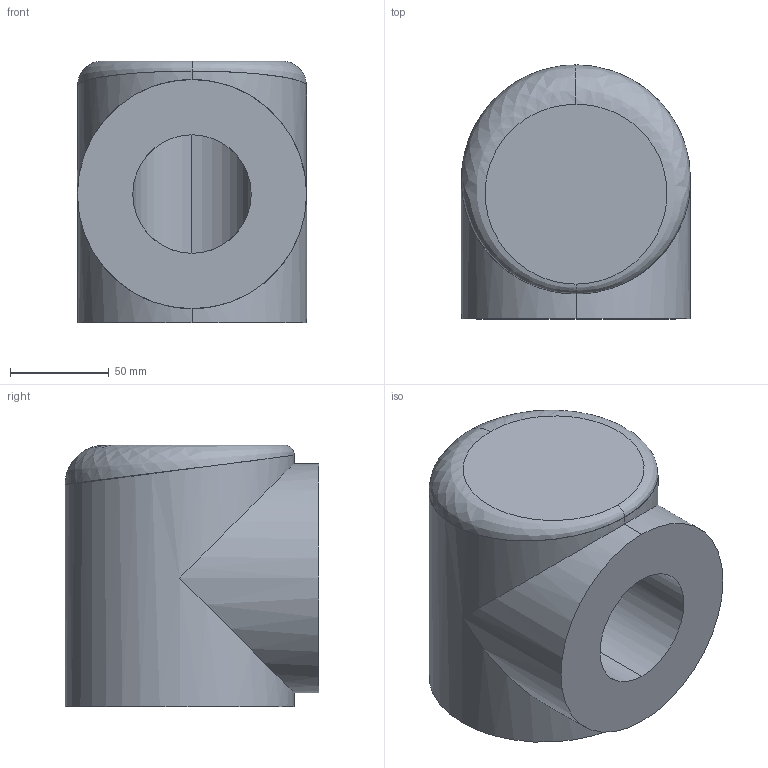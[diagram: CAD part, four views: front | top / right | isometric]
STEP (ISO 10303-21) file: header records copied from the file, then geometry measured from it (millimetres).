
FILE_DESCRIPTION (( 'STEP AP214' ), '1' );
FILE_NAME ('link1.STEP', '2020-08-12T08:23:50', ( '' ), ( '' ), 'SwSTEP 2.0', 'SolidWorks 2019', '' );
FILE_SCHEMA (( 'AUTOMOTIVE_DESIGN' ));
Length unit declared in the file: millimetre
Products named in the file (2): base; link1
Assembly tree (1 placements, depth 2):
  link1
    base
Bounding box: 116 x 128.5 x 132.5 mm (x, y, z)
Volume: 1172941.4 mm3; surface area: 122024.3 mm2
Topology: 2 solids, 2 shells, 20 faces, 58 edges, 42 vertices
Faces by surface type: cylinder 12, plane 6, bspline 2
Entity records: 1435 total; most frequent: CARTESIAN_POINT 906, ORIENTED_EDGE 116, DIRECTION 76, EDGE_CURVE 58, VERTEX_POINT 42, AXIS2_PLACEMENT_3D 32, EDGE_LOOP 22, FACE_OUTER_BOUND 20
